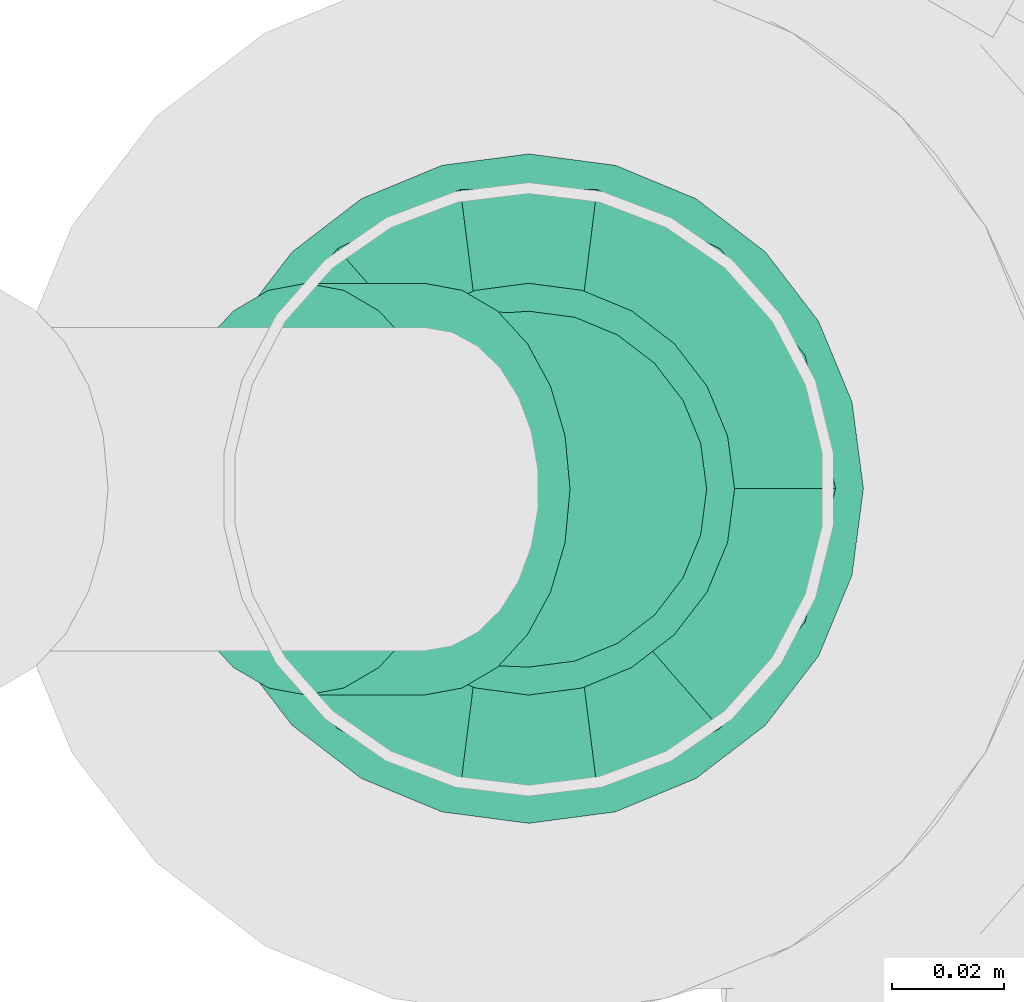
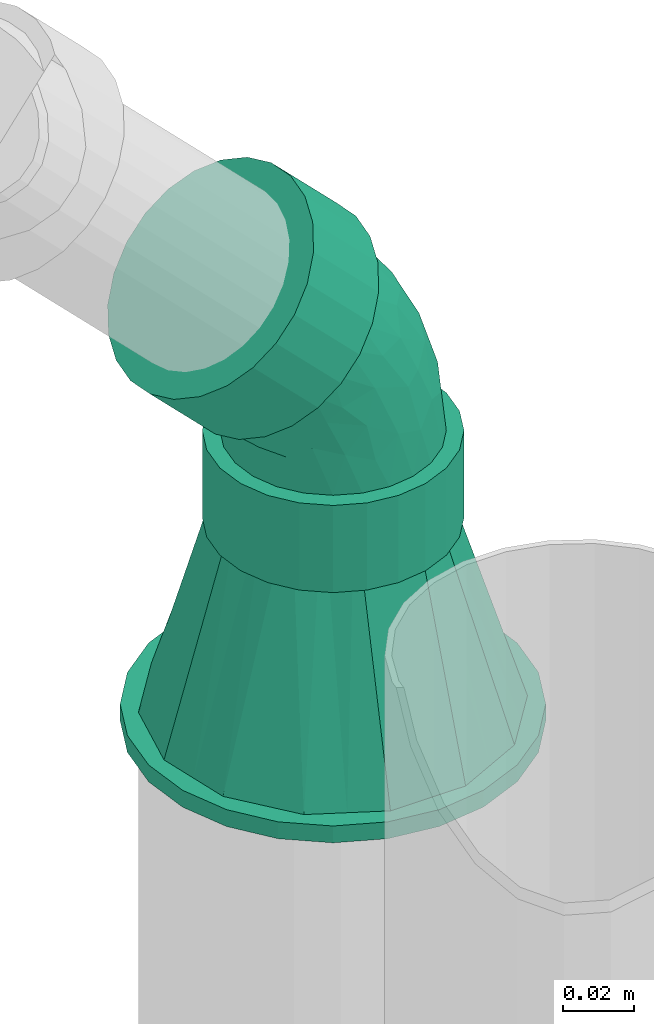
# One storey, part 57 of 78: 2 flow fittings.
"""IFC2X3 building model written with IfcOpenShell, lengths in millimetres."""

from ifc_helpers import new_model, entity, si_unit, converted_unit, derived_unit, direction, frame, origin_with_axes, place, context, subcontext, project, spatial, open_shell, surface_model, source, transform, mapped, type_object, element, save


model = new_model("IFC2X3")

# Units and contexts
model_context = context("Model", 3, precision=0.01, world=frame((0.0, 4.29681676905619e-09, 0.0)), true_north=direction((4.01073788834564e-13, 1.0)))
plan_context = context("Plan", 3, precision=0.01, world=frame((0.0, 4.29681676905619e-09, 0.0)), true_north=direction((4.01073788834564e-13, 1.0)))
body_context = subcontext(model_context, "Body", "Model", "MODEL_VIEW")
ifc_project = project(units=[converted_unit("PLANEANGLEUNIT", "DEGREE", entity("IfcPositiveLengthMeasure", 0.0174532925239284), si_unit("PLANEANGLEUNIT", "RADIAN"), dimensions=[0, 0, 0, 0, 0, 0, 0]), si_unit("AREAUNIT", "SQUARE_METRE"), si_unit("LENGTHUNIT", "METRE", prefix="MILLI"), si_unit("MASSUNIT", "GRAM", prefix="KILO"), si_unit("POWERUNIT", "WATT"), si_unit("PRESSUREUNIT", "PASCAL"), si_unit("FORCEUNIT", "NEWTON", prefix="KILO"), si_unit("ELECTRICVOLTAGEUNIT", "VOLT"), si_unit("ELECTRICCURRENTUNIT", "AMPERE"), si_unit("THERMODYNAMICTEMPERATUREUNIT", "DEGREE_CELSIUS"), si_unit("TIMEUNIT", "SECOND"), si_unit("VOLUMEUNIT", "CUBIC_METRE"), derived_unit("LINEARVELOCITYUNIT", [(si_unit("LENGTHUNIT", "METRE"), 1), (si_unit("TIMEUNIT", "SECOND"), -1)]), derived_unit("VOLUMETRICFLOWRATEUNIT", [(si_unit("VOLUMEUNIT", "CUBIC_METRE"), 1), (si_unit("TIMEUNIT", "SECOND"), -1)]), derived_unit("THERMALTRANSMITTANCEUNIT", [(si_unit("POWERUNIT", "WATT"), 1), (si_unit("THERMODYNAMICTEMPERATUREUNIT", "KELVIN"), -1), (si_unit("AREAUNIT", "SQUARE_METRE"), -1)]), derived_unit("SOUNDPRESSUREUNIT", [(si_unit("PRESSUREUNIT", "PASCAL"), 1)])], contexts=[model_context, plan_context])

# Site, building, storey
site_placement = place(None, frame((0.0, -4.29681676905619e-09, 0.0), z_axis=(0.0, 0.0, 1.0), x_axis=(1.0, 0.0, 0.0)))
site = spatial("IfcSite", under=ifc_project, at=site_placement, Name="ENGM", CompositionType="ELEMENT")
building_placement = place(site_placement, frame((0.0, 4.29681676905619e-09, 0.0), z_axis=(0.0, 0.0, 1.0), x_axis=(1.0, 0.0, 0.0)))
building = spatial("IfcBuilding", under=site, at=building_placement, Name="TH", CompositionType="ELEMENT")
storey_placement = place(building_placement, frame((0.0, 0.0, 205200.0), z_axis=(0.0, 0.0, 1.0), x_axis=(1.0, 0.0, 0.0)))
storey = spatial("IfcBuildingStorey", under=building, at=storey_placement, Name="Nivå D + 1,2 m", CompositionType="ELEMENT", Elevation=205200.0)

# Flow fittings
pipe_fitting_type_1 = type_object("IfcPipeFittingType", Name="magi_sewer_bend_001", PredefinedType="BEND")
shared_shape_1 = source(origin_with_axes(), body_context, "Body", "SurfaceModel", [
    surface_model("IfcShellBasedSurfaceModel", [(-56.42745, -9.55042, -35.64266), (-56.42745, -18.45, -31.95634), (-56.42745, -26.09224, -26.09224), (-56.42745, -35.64266, -9.55042), (-56.42745, -36.9, 0.0), (-56.42745, -31.95634, -18.45), (-56.42745, 31.95634, -18.45), (-56.42745, 9.55042, -35.64266), (-56.42745, 0.0, -36.9), (-56.42745, 18.45, -31.95634), (-56.42745, 26.09224, -26.09224), (-56.42745, 35.64266, -9.55042), (-56.42745, -35.64266, 9.55042), (-56.42745, -31.95634, 18.45), (-56.42745, -26.09224, 26.09224), (-56.42745, 18.45, 31.95634), (-56.42745, -9.55042, 35.64266), (-56.42745, -18.45, 31.95634), (-56.42745, 0.0, 36.9), (-56.42745, 35.64266, 9.55042), (-56.42745, 31.95634, 18.45), (-56.42745, 36.9, 0.0), (-56.42745, 26.09224, 26.09224), (-56.42745, 9.55042, 35.64266), (-26.42745, -26.09224, 26.09224), (-26.42745, 0.0, 36.9), (-26.42745, -9.55042, 35.64266), (-26.42745, -18.45, 31.95634), (-26.42745, -31.95634, 18.45), (-26.42745, -35.64266, 9.55042), (-26.42745, 35.64266, 9.55042), (-26.42745, 18.45, 31.95634), (-26.42745, 31.95634, 18.45), (-26.42745, 26.09224, 26.09224), (-26.42745, 9.55042, 35.64266), (-26.42745, 35.64266, -9.55042), (-26.42745, 36.9, 0.0), (-26.42745, -26.09224, -26.09224), (-26.42745, -36.9, 0.0), (-26.42745, -35.64266, -9.55042), (-26.42745, -31.95634, -18.45), (-26.42745, -18.45, -31.95634), (-26.42745, -9.55042, -35.64266), (-26.42745, 9.55042, -35.64266), (-26.42745, 0.0, -36.9), (-26.42745, 31.95634, -18.45), (-26.42745, 18.45, -31.95634), (-26.42745, 26.09224, -26.09224), (14.69598, 65.10364, 9.55042), (17.30265, 62.49706, 18.45), (21.44926, 58.35059, 26.09224), (14.69598, 65.10364, -9.55042), (33.14629, 46.65395, 35.64266), (26.85323, 52.9468, 31.95634), (39.89957, 39.90089, 36.9), (13.80689, 65.9927, 0.0), (17.30265, 62.49706, -18.45), (26.85323, 52.9468, -31.95634), (21.44926, 58.35059, -26.09224), (39.89957, 39.90089, -36.9), (33.14629, 46.65395, -35.64266), (46.65285, 33.14784, 35.64266), (52.94591, 26.85499, 31.95634), (58.34987, 21.4512, 26.09224), (62.49649, 17.30472, 18.45), (46.65285, 33.14784, -35.64266), (65.10315, 14.69814, 9.55042), (65.10315, 14.69814, -9.55042), (65.99224, 13.80909, 0.0), (52.94591, 26.85499, -31.95634), (58.34987, 21.4512, -26.09224), (62.49649, 17.30472, -18.45), (37.13702, 0.23764, 26.09224), (44.77939, -7.40447, 0.0), (43.8903, -6.51541, 9.55042), (41.28364, -3.90883, 18.45), (31.73305, 5.64143, 31.95634), (25.44, 11.93428, 35.64266), (25.44, 11.93428, -35.64266), (43.8903, -6.51541, -9.55042), (37.13702, 0.23764, -26.09224), (41.28364, -3.90883, -18.45), (31.73305, 5.64143, -31.95634), (11.93344, 25.44039, -35.64266), (18.68672, 18.68734, -36.9), (0.23641, 37.13703, 26.09224), (18.68672, 18.68734, 36.9), (11.93344, 25.44039, 35.64266), (5.64038, 31.73324, 31.95634), (-3.9102, 41.2835, 18.45), (-6.51687, 43.89009, 9.55042), (-3.9102, 41.2835, -18.45), (5.64038, 31.73324, -31.95634), (0.23641, 37.13703, -26.09224), (-6.51687, 43.89009, -9.55042), (-7.40596, 44.77914, 0.0), (-26.42745, 0.0, -31.9), (-26.42745, -22.55671, -22.55671), (-26.42745, 8.25633, -30.81303), (-26.42745, 15.95, -27.62621), (-26.42745, 22.55671, -22.55671), (-26.42745, 30.81303, -8.25633), (-26.42745, 27.62621, -15.95), (-26.42745, -30.81303, -8.25633), (-26.42745, 15.95, 27.62621), (-26.42745, -15.95, -27.62621), (-26.42745, -8.25633, -30.81303), (-26.42745, -27.62621, -15.95), (-26.42745, -31.9, 0.0), (-26.42745, -15.95, 27.62621), (-26.42745, 30.81303, 8.25633), (-26.42745, 27.62621, 15.95), (-26.42745, 22.55671, 22.55671), (-26.42745, 8.25633, 30.81303), (-26.42745, -30.81303, 8.25633), (-26.42745, -27.62621, 15.95), (-26.42745, -22.55671, 22.55671), (-26.42745, -8.25633, 30.81303), (-26.42745, 0.0, 31.9), (-26.42745, 31.9, 0.0), (12.84851, 24.52534, -30.81303), (24.52492, 12.84933, -30.81303), (18.68672, 18.68734, -31.9), (2.73645, 34.63707, -22.55671), (7.40818, 29.9655, -27.62621), (41.2438, -3.869, 0.0), (-0.84829, 38.22169, -15.95), (40.47518, -3.10041, -8.25633), (34.63698, 2.7376, 22.55671), (34.63698, 2.7376, -22.55671), (29.96526, 7.40917, -27.62621), (38.22172, -0.84702, -15.95), (-3.10175, 40.47508, -8.25633), (2.73645, 34.63707, 22.55671), (-3.87036, 41.24367, 0.0), (-3.10175, 40.47508, 8.25633), (-0.84829, 38.22169, 15.95), (12.84851, 24.52534, 30.81303), (7.40818, 29.9655, 27.62621), (40.47518, -3.10041, 8.25633), (38.22172, -0.84702, 15.95), (29.96526, 7.40917, 27.62621), (18.68672, 18.68734, 31.9), (24.52492, 12.84933, 30.81303), (8.12482, -19.6146, 17.77683), (-7.05775, -18.02912, 24.61526), (-10.30147, -24.39746, 18.67866), (-10.65903, -29.824, 0.0), (-1.65795, -28.63897, 0.0), (-6.80923, -29.38884, 5.44719), (24.53601, -9.96697, 18.67866), (-12.64025, -11.69744, 29.15495), (3.27541, -7.90737, 28.753), (0.94665, 19.1778, 29.77413), (5.7669, 15.10036, 31.43604), (-9.52117, -3.0714, 31.47738), (-3.03425, 7.32516, 31.78791), (-15.9837, 4.42044, 31.70642), (-9.06151, 21.87592, 26.04336), (-14.06841, 26.75285, 20.13106), (17.20933, 0.66695, 29.15495), (-12.25751, 13.27447, 29.82201), (12.31118, -20.87773, 12.57193), (-5.7201, -27.59828, 11.07801), (9.90426, -23.91043, 6.93335), (-13.14171, 31.72616, 13.10593), (25.59617, -15.96578, 5.44719), (28.62605, -13.55121, 0.0), (-12.77755, 34.18195, 6.70259), (23.55991, -15.46982, 11.07801), (8.90421, 4.56082, 31.47738), (17.73922, -7.75763, 24.61526), (-14.2196, 34.32834, 0.0), (5.35444, -12.92646, 25.43834), (9.88276, -23.85853, 0.0), (21.42347, -19.0781, 0.0), (-9.52117, -3.0714, -31.47738), (-6.80923, -29.38884, -5.44719), (9.90426, -23.91043, -6.93335), (8.90421, 4.56082, -31.47738), (-14.23035, 12.89113, -29.77413), (-14.75549, 6.59951, -31.43604), (-8.96974, 28.86484, -20.13106), (17.73923, -7.75763, -24.61526), (-13.14171, 31.72616, -13.10593), (23.55991, -15.46982, -11.07801), (-15.13575, 33.20512, -6.70259), (-0.7194, 18.05382, -29.82201), (-5.7201, -27.59828, -11.07801), (-9.06152, 21.87592, -26.04336), (-10.30147, -24.39746, -18.67866), (-7.05775, -18.02912, -24.61526), (5.35444, -12.92646, -25.43833), (8.12482, -19.6146, -17.77683), (-12.64025, -11.69744, -29.15495), (17.20933, 0.66695, -29.15495), (3.27541, -7.90737, -28.753), (25.59617, -15.96578, -5.44719), (8.17622, 14.42804, -31.70642), (6.05786, -23.468, -12.57193), (24.53601, -9.96697, -18.67866), (-3.03425, 7.32516, -31.78791)], [open_shell([[[0, 1, 2]], [[0, 2, 3]], [[3, 4, 0]], [[3, 2, 5]], [[0, 4, 6]], [[0, 7, 8]], [[0, 9, 7]], [[9, 6, 10]], [[0, 6, 9]], [[4, 11, 6]], [[4, 12, 11]], [[12, 13, 14]], [[15, 12, 14]], [[15, 14, 16]], [[16, 14, 17]], [[15, 16, 18]], [[19, 15, 20]], [[21, 11, 19]], [[20, 15, 22]], [[19, 12, 15]], [[23, 15, 18]], [[19, 11, 12]], [[24, 25, 26]], [[24, 26, 27]], [[24, 28, 29]], [[25, 24, 30]], [[30, 24, 29]], [[31, 32, 33]], [[31, 34, 25]], [[31, 30, 32]], [[25, 30, 31]], [[30, 35, 36]], [[30, 29, 35]], [[37, 38, 39]], [[37, 39, 40]], [[37, 41, 42]], [[38, 37, 43]], [[44, 37, 42]], [[45, 46, 47]], [[45, 35, 38]], [[38, 43, 46]], [[46, 45, 38]], [[43, 37, 44]], [[38, 35, 29]], [[35, 11, 36]], [[45, 6, 35]], [[9, 47, 46]], [[45, 47, 10]], [[7, 46, 43]], [[35, 6, 11]], [[11, 21, 36]], [[7, 9, 46]], [[10, 47, 9]], [[10, 6, 45]], [[8, 7, 43]], [[43, 44, 8]], [[42, 0, 44]], [[41, 1, 42]], [[39, 38, 3]], [[37, 2, 41]], [[41, 2, 1]], [[1, 0, 42]], [[5, 40, 3]], [[5, 2, 37]], [[3, 40, 39]], [[38, 4, 3]], [[5, 37, 40]], [[44, 0, 8]], [[29, 12, 38]], [[28, 13, 29]], [[17, 24, 27]], [[28, 24, 14]], [[16, 27, 26]], [[29, 13, 12]], [[12, 4, 38]], [[16, 17, 27]], [[14, 24, 17]], [[14, 13, 28]], [[18, 16, 26]], [[26, 25, 18]], [[15, 31, 33]], [[20, 32, 30]], [[33, 32, 22]], [[19, 30, 36]], [[23, 34, 15]], [[34, 23, 25]], [[34, 31, 15]], [[33, 22, 15]], [[32, 20, 22]], [[19, 20, 30]], [[36, 21, 19]], [[25, 23, 18]], [[48, 49, 50]], [[51, 48, 50]], [[50, 52, 51]], [[52, 50, 53]], [[54, 51, 52]], [[48, 51, 55]], [[54, 56, 51]], [[56, 57, 58]], [[57, 56, 59]], [[59, 60, 57]], [[59, 56, 54]], [[61, 62, 63]], [[61, 63, 64]], [[65, 64, 66]], [[64, 59, 61]], [[67, 66, 68]], [[65, 67, 69]], [[65, 59, 64]], [[70, 67, 71]], [[67, 70, 69]], [[66, 67, 65]], [[61, 59, 54]], [[72, 73, 74]], [[72, 74, 75]], [[72, 76, 77]], [[73, 72, 78]], [[78, 72, 77]], [[79, 80, 81]], [[80, 79, 82]], [[79, 78, 82]], [[79, 73, 78]], [[78, 83, 84]], [[78, 77, 83]], [[85, 86, 87]], [[85, 87, 88]], [[85, 89, 90]], [[85, 90, 86]], [[86, 90, 91]], [[92, 91, 93]], [[92, 83, 86]], [[90, 94, 91]], [[92, 86, 91]], [[95, 94, 90]], [[86, 83, 77]], [[83, 60, 84]], [[92, 57, 83]], [[56, 93, 91]], [[92, 93, 58]], [[51, 91, 94]], [[83, 57, 60]], [[60, 59, 84]], [[51, 56, 91]], [[58, 93, 56]], [[58, 57, 92]], [[55, 51, 94]], [[94, 95, 55]], [[90, 48, 95]], [[89, 49, 90]], [[87, 86, 52]], [[85, 50, 89]], [[89, 50, 49]], [[49, 48, 90]], [[53, 88, 52]], [[53, 50, 85]], [[52, 88, 87]], [[86, 54, 52]], [[53, 85, 88]], [[95, 48, 55]], [[77, 61, 86]], [[76, 62, 77]], [[64, 72, 75]], [[76, 72, 63]], [[66, 75, 74]], [[77, 62, 61]], [[61, 54, 86]], [[66, 64, 75]], [[63, 72, 64]], [[63, 62, 76]], [[68, 66, 74]], [[74, 73, 68]], [[71, 81, 80]], [[69, 82, 78]], [[80, 82, 70]], [[65, 78, 84]], [[67, 79, 71]], [[79, 67, 73]], [[79, 81, 71]], [[80, 70, 71]], [[82, 69, 70]], [[65, 69, 78]], [[84, 59, 65]], [[73, 67, 68]], [[96, 97, 98]], [[99, 98, 100]], [[101, 102, 100]], [[100, 98, 97]], [[100, 103, 104]], [[105, 97, 106]], [[97, 96, 106]], [[107, 103, 97]], [[97, 103, 100]], [[108, 109, 103]], [[101, 100, 110]], [[104, 110, 100]], [[111, 110, 104]], [[103, 109, 104]], [[112, 111, 104]], [[113, 104, 109]], [[114, 115, 108]], [[108, 115, 116]], [[117, 118, 109]], [[109, 108, 116]], [[113, 109, 118]], [[110, 119, 101]], [[120, 121, 122]], [[123, 120, 124]], [[125, 123, 126]], [[120, 123, 127]], [[128, 125, 126]], [[121, 129, 130]], [[121, 120, 129]], [[129, 127, 131]], [[120, 127, 129]], [[123, 125, 127]], [[126, 132, 133]], [[134, 135, 136]], [[136, 133, 132]], [[137, 126, 138]], [[126, 133, 138]], [[137, 128, 126]], [[139, 128, 140]], [[125, 128, 139]], [[141, 142, 143]], [[141, 128, 137]], [[142, 141, 137]], [[132, 134, 136]], [[144, 145, 146]], [[147, 148, 149]], [[109, 116, 145]], [[140, 128, 150]], [[151, 145, 152]], [[146, 145, 116]], [[137, 153, 154]], [[117, 109, 151]], [[155, 156, 157]], [[118, 117, 155]], [[112, 158, 159]], [[141, 143, 160]], [[157, 113, 118]], [[104, 161, 158]], [[114, 147, 149]], [[138, 133, 158]], [[162, 163, 164]], [[158, 112, 104]], [[116, 115, 146]], [[111, 159, 165]], [[110, 111, 165]], [[139, 166, 167]], [[168, 119, 110]], [[169, 162, 164]], [[163, 149, 164]], [[104, 113, 161]], [[142, 154, 170]], [[128, 141, 171]], [[136, 135, 165]], [[170, 143, 142]], [[144, 146, 163]], [[128, 171, 150]], [[156, 154, 153]], [[171, 141, 160]], [[115, 163, 146]], [[166, 139, 169]], [[144, 150, 171]], [[157, 161, 113]], [[144, 162, 150]], [[110, 165, 168]], [[115, 114, 163]], [[172, 168, 134]], [[145, 173, 152]], [[135, 168, 165]], [[152, 170, 155]], [[136, 165, 159]], [[152, 160, 170]], [[136, 159, 133]], [[156, 155, 170]], [[137, 138, 153]], [[153, 158, 161]], [[151, 155, 117]], [[111, 112, 159]], [[169, 139, 140]], [[169, 140, 150]], [[173, 144, 171]], [[133, 159, 158]], [[158, 153, 138]], [[156, 153, 161]], [[145, 151, 109]], [[155, 151, 152]], [[170, 160, 143]], [[171, 160, 152]], [[114, 108, 147]], [[164, 148, 174]], [[114, 149, 163]], [[148, 164, 149]], [[166, 164, 175]], [[167, 166, 175]], [[167, 125, 139]], [[164, 166, 169]], [[170, 154, 156]], [[142, 137, 154]], [[155, 157, 118]], [[161, 157, 156]], [[144, 173, 145]], [[171, 152, 173]], [[134, 168, 135]], [[168, 172, 119]], [[150, 162, 169]], [[163, 162, 144]], [[175, 164, 174]], [[106, 96, 176]], [[148, 177, 178]], [[122, 121, 179]], [[180, 181, 98]], [[102, 182, 100]], [[130, 129, 183]], [[184, 182, 102]], [[131, 127, 185]], [[101, 186, 184]], [[124, 120, 187]], [[103, 177, 147]], [[99, 180, 98]], [[177, 103, 188]], [[123, 189, 182]], [[188, 107, 190]], [[190, 97, 191]], [[97, 105, 191]], [[192, 193, 191]], [[103, 107, 188]], [[97, 190, 107]], [[194, 105, 106]], [[195, 179, 121]], [[132, 126, 184]], [[196, 194, 176]], [[119, 172, 186]], [[193, 190, 191]], [[134, 132, 186]], [[196, 176, 179]], [[123, 124, 189]], [[184, 102, 101]], [[126, 182, 184]], [[194, 191, 105]], [[187, 189, 124]], [[181, 176, 96]], [[189, 187, 180]], [[100, 189, 99]], [[127, 167, 197]], [[198, 120, 122]], [[195, 121, 130]], [[199, 185, 178]], [[129, 200, 183]], [[196, 195, 183]], [[129, 131, 200]], [[201, 198, 179]], [[200, 193, 183]], [[201, 179, 176]], [[197, 167, 175]], [[198, 187, 120]], [[201, 181, 180]], [[177, 188, 178]], [[193, 199, 190]], [[183, 192, 196]], [[131, 185, 200]], [[132, 184, 186]], [[193, 200, 185]], [[126, 123, 182]], [[100, 182, 189]], [[189, 180, 99]], [[201, 180, 187]], [[176, 194, 106]], [[191, 194, 196]], [[183, 195, 130]], [[179, 195, 196]], [[147, 177, 148]], [[147, 108, 103]], [[199, 178, 188]], [[197, 178, 185]], [[178, 175, 174]], [[127, 125, 167]], [[178, 197, 175]], [[127, 197, 185]], [[176, 181, 201]], [[96, 98, 181]], [[179, 198, 122]], [[187, 198, 201]], [[193, 192, 183]], [[191, 196, 192]], [[119, 186, 101]], [[186, 172, 134]], [[190, 199, 188]], [[185, 199, 193]], [[148, 178, 174]]])]),
])
flow_fitting_1_placement = place(storey_placement, frame((899103.44516, 483269.48645, 5097.07670999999), z_axis=(-1.6999999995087e-05, 0.999999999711, -1.6999999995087e-05), x_axis=(0.707106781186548, 0.0, -0.707106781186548)))
element("IfcFlowFitting", 1, at=flow_fitting_1_placement, inside=storey, type_object=pipe_fitting_type_1, Name="magi_sewer_bend_001", context=body_context, shape_type="MappedRepresentation", body=[
    mapped(shared_shape_1, transform((0.0, 0.0, 0.0), scale=1.0)),
])
pipe_fitting_type_2 = type_object("IfcPipeFittingType", Name="magi_sewer_transition_001", PredefinedType="TRANSITION")
shared_shape_2 = source(origin_with_axes(), body_context, "Body", "SurfaceModel", [
    surface_model("IfcShellBasedSurfaceModel", [(94.2, -12.23865, 53.62104), (94.2, -34.29194, 43.00073), (94.2, -49.55329, 23.86361), (94.2, 55.0, 0.0), (94.2, 12.23865, 53.62104), (94.2, 34.29194, 43.00073), (94.2, 49.55329, 23.86361), (94.2, -12.23865, -53.62104), (94.2, -49.55329, -23.86361), (94.2, -34.29194, -43.00073), (94.2, 34.29194, -43.00073), (94.2, 49.55329, -23.86361), (94.2, 12.23865, -53.62104), (94.2, -55.0, 0.0), (5.8, 8.96149, 27.58064), (5.8, 23.46149, 17.04577), (5.8, -29.0, 0.0), (5.8, -23.46149, 17.04577), (5.8, -8.96149, 27.58064), (5.8, 8.96149, -27.58064), (5.8, 23.46149, -17.04577), (5.8, -8.96149, -27.58064), (5.8, -23.46149, -17.04577), (5.8, 29.0, 0.0), (94.2, -52.27664, -11.9318), (94.2, 52.27664, -11.9318), (5.8, 26.23075, -8.52289), (94.2, 23.2653, -48.31088), (5.8, 16.21149, -22.3132), (94.2, -23.2653, -48.31088), (5.8, -26.23075, -8.52289), (5.8, 0.0, -27.58064), (94.2, 0.0, -53.62104), (5.8, -16.21149, -22.3132), (94.2, -41.92261, -33.43217), (94.2, 41.92261, -33.43217), (94.2, 52.27664, 11.9318), (94.2, -52.27664, 11.9318), (5.8, -26.23075, 8.52289), (94.2, -23.2653, 48.31088), (5.8, -16.21149, 22.3132), (94.2, 23.2653, 48.31088), (5.8, 26.23075, 8.52289), (5.8, 0.0, 27.58064), (94.2, 0.0, 53.62104), (5.8, 16.21149, 22.3132), (94.2, 41.92261, 33.43217), (94.2, -41.92261, 33.43217), (94.2, 42.42641, 42.42641), (94.2, 0.0, 60.0), (94.2, 15.52914, 57.95555), (94.2, 30.0, 51.96152), (94.2, 51.96152, 30.0), (94.2, 57.95555, 15.52914), (94.2, -51.96152, 30.0), (94.2, -60.0, 0.0), (94.2, -42.42641, 42.42641), (94.2, -30.0, 51.96152), (94.2, -15.52914, 57.95555), (94.2, -57.95555, 15.52914), (94.2, -51.96152, -30.0), (94.2, 57.95555, -15.52914), (94.2, 30.0, -51.96152), (94.2, 51.96152, -30.0), (94.2, -42.42641, -42.42641), (94.2, 42.42641, -42.42641), (94.2, 15.52914, -57.95555), (94.2, -57.95555, -15.52914), (94.2, -30.0, -51.96152), (94.2, 0.0, -60.0), (94.2, -15.52914, -57.95555), (94.2, 60.0, 0.0), (100.0, 30.0, -51.96152), (100.0, -42.42641, -42.42641), (100.0, 15.52914, -57.95555), (100.0, 51.96152, -30.0), (100.0, 42.42641, -42.42641), (100.0, 57.95555, -15.52914), (100.0, -60.0, 0.0), (100.0, 0.0, -60.0), (100.0, -30.0, -51.96152), (100.0, -15.52914, -57.95555), (100.0, -51.96152, -30.0), (100.0, -57.95555, -15.52914), (100.0, 60.0, 0.0), (100.0, 57.95555, 15.52914), (100.0, 51.96152, 30.0), (100.0, 42.42641, 42.42641), (100.0, 15.52914, 57.95555), (100.0, 0.0, 60.0), (100.0, 30.0, 51.96152), (100.0, -51.96152, 30.0), (100.0, -57.95555, 15.52914), (100.0, -42.42641, 42.42641), (100.0, -30.0, 51.96152), (100.0, -15.52914, 57.95555), (5.8, 17.0, -29.44486), (5.8, -17.0, -29.44486), (5.8, 8.79985, -32.84148), (5.8, 29.44486, -17.0), (5.8, 24.04163, -24.04163), (5.8, 32.84148, -8.79985), (5.8, 34.0, 0.0), (5.8, 0.0, -34.0), (5.8, -8.79985, -32.84148), (5.8, -24.04163, -24.04163), (5.8, -32.84148, -8.79985), (5.8, -29.44486, -17.0), (5.8, 32.84148, 8.79985), (5.8, 29.44486, 17.0), (5.8, 24.04163, 24.04163), (5.8, 17.0, 29.44486), (5.8, 8.79985, 32.84148), (5.8, 0.0, 34.0), (5.8, -8.79985, 32.84148), (5.8, -32.84148, 8.79985), (5.8, -24.04163, 24.04163), (5.8, -29.44486, 17.0), (5.8, -34.0, 0.0), (5.8, -17.0, 29.44486), (0.0, 0.0, 34.0), (0.0, 8.79985, 32.84148), (0.0, 17.0, 29.44486), (0.0, 24.04163, 24.04163), (0.0, 29.44486, 17.0), (0.0, 32.84148, 8.79985), (0.0, -32.84148, 8.79985), (0.0, -8.79985, 32.84148), (0.0, -24.04163, 24.04163), (0.0, -17.0, 29.44486), (0.0, -29.44486, 17.0), (0.0, -32.84148, -8.79985), (0.0, -34.0, 0.0), (0.0, 17.0, -29.44486), (0.0, 34.0, 0.0), (0.0, 32.84148, -8.79985), (0.0, 24.04163, -24.04163), (0.0, 29.44486, -17.0), (0.0, 8.79985, -32.84148), (0.0, -24.04163, -24.04163), (0.0, -29.44486, -17.0), (0.0, -17.0, -29.44486), (0.0, 0.0, -34.0), (0.0, -8.79985, -32.84148)], [open_shell([[[0, 1, 2]], [[0, 2, 3]], [[4, 0, 5]], [[3, 6, 5]], [[0, 3, 5]], [[2, 7, 3]], [[8, 9, 2]], [[9, 7, 2]], [[3, 10, 11]], [[10, 3, 12]], [[12, 3, 7]], [[2, 13, 8]], [[14, 15, 16]], [[14, 17, 18]], [[17, 14, 16]], [[15, 19, 16]], [[20, 19, 15]], [[16, 21, 22]], [[16, 19, 21]], [[15, 23, 20]], [[24, 13, 16]], [[25, 11, 26]], [[27, 28, 10]], [[21, 7, 29]], [[16, 30, 24]], [[11, 20, 26]], [[31, 12, 32]], [[29, 33, 21]], [[33, 34, 22]], [[30, 22, 8]], [[30, 8, 24]], [[9, 33, 29]], [[20, 10, 28]], [[28, 27, 19]], [[34, 33, 9]], [[20, 11, 35]], [[12, 31, 19]], [[20, 35, 10]], [[23, 25, 26]], [[34, 8, 22]], [[32, 7, 31]], [[31, 7, 21]], [[25, 23, 3]], [[12, 19, 27]], [[36, 3, 23]], [[37, 2, 38]], [[39, 40, 1]], [[14, 4, 41]], [[23, 42, 36]], [[2, 17, 38]], [[43, 0, 44]], [[41, 45, 14]], [[45, 46, 15]], [[42, 15, 6]], [[42, 6, 36]], [[5, 45, 41]], [[17, 1, 40]], [[40, 39, 18]], [[46, 45, 5]], [[17, 2, 47]], [[0, 43, 18]], [[17, 47, 1]], [[16, 37, 38]], [[46, 6, 15]], [[44, 4, 43]], [[43, 4, 14]], [[37, 16, 13]], [[0, 18, 39]], [[48, 49, 50]], [[48, 50, 51]], [[48, 52, 53]], [[49, 48, 54]], [[55, 48, 53]], [[49, 56, 57]], [[57, 58, 49]], [[54, 55, 59]], [[49, 54, 56]], [[48, 55, 54]], [[53, 60, 55]], [[53, 61, 62]], [[62, 61, 63]], [[62, 64, 53]], [[62, 63, 65]], [[66, 64, 62]], [[64, 60, 53]], [[67, 55, 60]], [[68, 69, 70]], [[69, 68, 64]], [[69, 64, 66]], [[71, 61, 53]], [[72, 73, 74]], [[75, 72, 76]], [[72, 77, 78]], [[77, 72, 75]], [[78, 73, 72]], [[79, 80, 81]], [[80, 79, 73]], [[74, 73, 79]], [[73, 78, 82]], [[82, 78, 83]], [[77, 84, 85]], [[85, 86, 87]], [[78, 85, 87]], [[88, 89, 87]], [[88, 87, 90]], [[91, 87, 89]], [[78, 91, 92]], [[78, 87, 91]], [[89, 93, 91]], [[89, 94, 93]], [[95, 94, 89]], [[85, 78, 77]], [[67, 83, 55]], [[60, 82, 67]], [[80, 64, 68]], [[60, 64, 73]], [[81, 68, 70]], [[67, 82, 83]], [[83, 78, 55]], [[81, 80, 68]], [[73, 64, 80]], [[73, 82, 60]], [[79, 81, 70]], [[70, 69, 79]], [[66, 74, 69]], [[62, 72, 66]], [[75, 65, 63]], [[62, 65, 76]], [[77, 63, 61]], [[62, 76, 72]], [[72, 74, 66]], [[84, 77, 61]], [[75, 63, 77]], [[75, 76, 65]], [[71, 84, 61]], [[69, 74, 79]], [[53, 85, 71]], [[52, 86, 53]], [[90, 48, 51]], [[52, 48, 87]], [[88, 51, 50]], [[53, 86, 85]], [[85, 84, 71]], [[88, 90, 51]], [[87, 48, 90]], [[87, 86, 52]], [[89, 88, 50]], [[50, 49, 89]], [[58, 95, 49]], [[57, 94, 58]], [[91, 56, 54]], [[57, 56, 93]], [[92, 54, 59]], [[57, 93, 94]], [[94, 95, 58]], [[78, 92, 59]], [[91, 54, 92]], [[91, 93, 56]], [[55, 78, 59]], [[49, 95, 89]], [[96, 97, 98]], [[99, 96, 100]], [[97, 96, 101]], [[101, 96, 99]], [[97, 101, 102]], [[103, 97, 104]], [[103, 98, 97]], [[105, 106, 107]], [[106, 105, 97]], [[102, 106, 97]], [[102, 108, 106]], [[108, 109, 110]], [[108, 110, 111]], [[111, 112, 113]], [[111, 113, 108]], [[108, 113, 114]], [[115, 116, 117]], [[118, 106, 115]], [[116, 114, 119]], [[116, 115, 108]], [[114, 116, 108]], [[115, 106, 108]], [[120, 121, 122]], [[120, 122, 123]], [[123, 124, 125]], [[123, 125, 120]], [[120, 125, 126]], [[127, 128, 129]], [[128, 127, 126]], [[128, 126, 130]], [[127, 120, 126]], [[126, 131, 132]], [[126, 125, 131]], [[133, 134, 135]], [[136, 135, 137]], [[134, 133, 131]], [[133, 135, 136]], [[131, 133, 138]], [[131, 139, 140]], [[139, 131, 141]], [[141, 142, 143]], [[141, 131, 138]], [[138, 142, 141]], [[134, 131, 125]], [[131, 106, 132]], [[140, 107, 131]], [[97, 139, 141]], [[140, 139, 105]], [[104, 141, 143]], [[131, 107, 106]], [[106, 118, 132]], [[104, 97, 141]], [[105, 139, 97]], [[105, 107, 140]], [[103, 104, 143]], [[143, 142, 103]], [[138, 98, 142]], [[133, 96, 138]], [[99, 136, 137]], [[133, 136, 100]], [[101, 137, 135]], [[133, 100, 96]], [[96, 98, 138]], [[102, 101, 135]], [[99, 137, 101]], [[99, 100, 136]], [[134, 102, 135]], [[142, 98, 103]], [[125, 108, 134]], [[124, 109, 125]], [[111, 123, 122]], [[124, 123, 110]], [[112, 122, 121]], [[125, 109, 108]], [[108, 102, 134]], [[112, 111, 122]], [[110, 123, 111]], [[110, 109, 124]], [[113, 112, 121]], [[121, 120, 113]], [[127, 114, 120]], [[129, 119, 127]], [[117, 128, 130]], [[129, 128, 116]], [[115, 130, 126]], [[129, 116, 119]], [[119, 114, 127]], [[118, 115, 126]], [[117, 130, 115]], [[117, 116, 128]], [[132, 118, 126]], [[120, 114, 113]]])]),
])
flow_fitting_2_placement = place(storey_placement, frame((899103.44472, 483269.58714, 5070.64926000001), z_axis=(-1.6999999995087e-05, 0.999999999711, -1.6999999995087e-05), x_axis=(-2.6999982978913e-05, -1.70004589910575e-05, -0.999999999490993)))
element("IfcFlowFitting", 2, at=flow_fitting_2_placement, inside=storey, type_object=pipe_fitting_type_2, Name="magi_sewer_transition_001", context=body_context, shape_type="MappedRepresentation", body=[
    mapped(shared_shape_2, transform((0.0, 0.0, 0.0), scale=1.0)),
])

save(model, "model.ifc")
